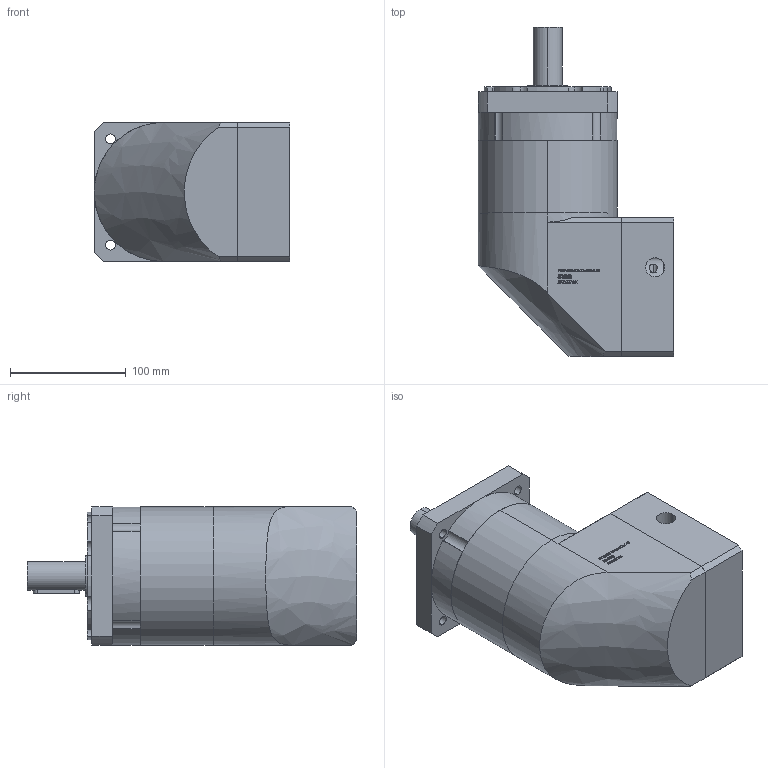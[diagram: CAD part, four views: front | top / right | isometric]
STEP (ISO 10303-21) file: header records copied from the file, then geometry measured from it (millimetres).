
FILE_DESCRIPTION (( 'STEP AP203' ), '1' );
FILE_NAME ('PVFA120-L2-22-110-145.STEP', '2022-07-27T03:17:41', ( 'Windows User' ), ( 'P R C' ), 'SwSTEP 2.0', 'SolidWorks 2016', '' );
FILE_SCHEMA (( 'CONFIG_CONTROL_DESIGN' ));
Length unit declared in the file: millimetre
Products named in the file (9): 粣創-3207A 35x72x27_2; PVFA120-L2-22-110-145; PVFA120-眊极; PVFA120 內齿圈-优化_二级内齿圈; PVFA120 奻屳唳; PVFA120蟀諉啣; PVFA120-薊粣ん-梓袧; 螺釘範本 M8x20; 邧埴瑩 8x7x40
Assembly tree (8 placements, depth 2):
  PVFA120-L2-22-110-145
    PVFA120-眊极
    PVFA120 內齿圈-优化_二级内齿圈
    PVFA120 奻屳唳
    PVFA120蟀諉啣
    PVFA120-薊粣ん-梓袧
    螺釘範本 M8x20
    邧埴瑩 8x7x40
    粣創-3207A 35x72x27_2
Bounding box: 169 x 284.5 x 120 mm (x, y, z)
Volume: 2987515.3 mm3; surface area: 319840.7 mm2
Topology: 8 solids, 16 shells, 1173 faces, 3338 edges, 2196 vertices
Faces by surface type: plane 650, cylinder 226, bspline 131, torus 90, sphere 48, cone 28
Entity records: 46668 total; most frequent: CARTESIAN_POINT 16792, ORIENTED_EDGE 6400, DIRECTION 5385, EDGE_CURVE 3200, VERTEX_POINT 2124, LINE 1871, VECTOR 1871, AXIS2_PLACEMENT_3D 1757
